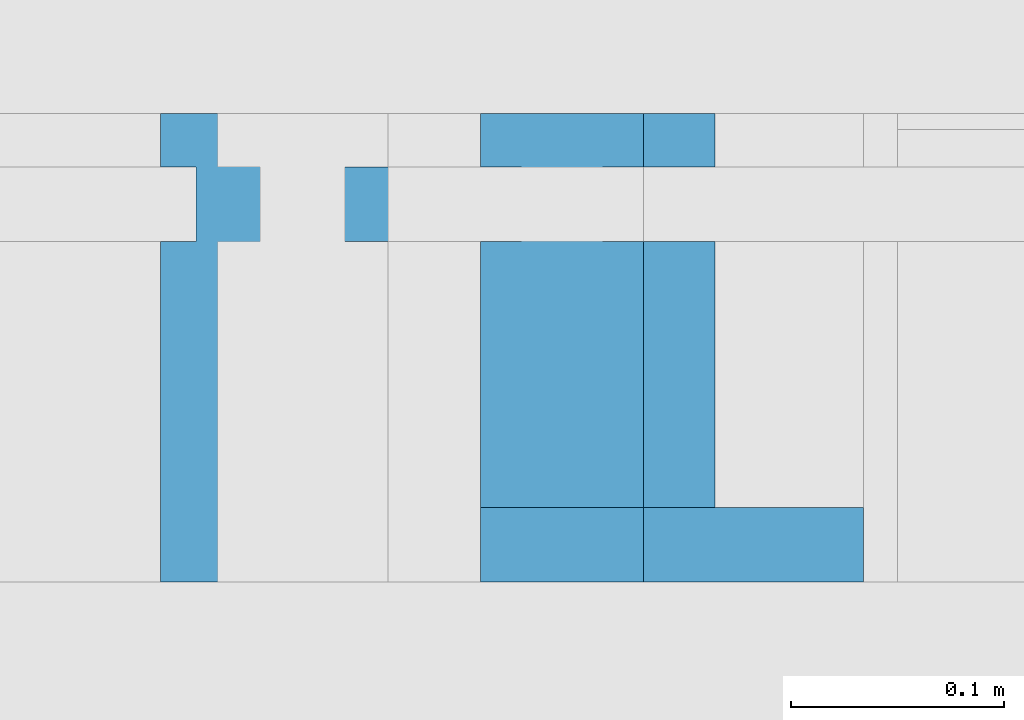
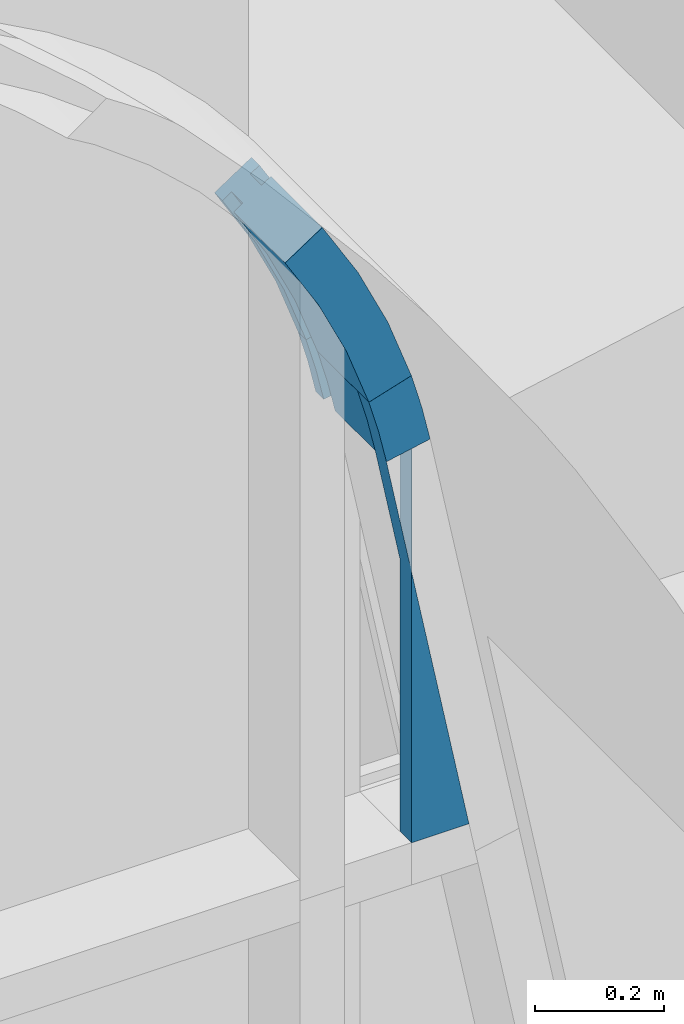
# One storey, part 212 of 302: 2 members, 1 plate, 1 element without a shape of its own.
"""IFC2X3 building model written with IfcOpenShell, lengths in metres."""

from ifc_helpers import new_model, entity, si_unit, converted_unit, derived_unit, direction, frame, origin, place, context, subcontext, project, spatial, face_set, faceted_brep, surface_model, source, transform, mapped, material, type_object, type_shapes, element, aggregate, save


model = new_model("IFC2X3")

# Units and contexts
model_context = context("Model", 3, precision=1e-05, world=origin(), true_north=direction((6.12303176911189e-17, 1.0)))
body_context = subcontext(model_context, "Body", "Model", "MODEL_VIEW")
ifc_project = project(units=[si_unit("LENGTHUNIT", "METRE"), si_unit("AREAUNIT", "SQUARE_METRE"), si_unit("VOLUMEUNIT", "CUBIC_METRE"), converted_unit("PLANEANGLEUNIT", "DEGREE", entity("IfcRatioMeasure", 0.0174532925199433), si_unit("PLANEANGLEUNIT", "RADIAN"), dimensions=[0, 0, 0, 0, 0, 0, 0]), si_unit("MASSUNIT", "GRAM", prefix="KILO"), derived_unit("MASSDENSITYUNIT", [(si_unit("MASSUNIT", "GRAM", prefix="KILO"), 1), (si_unit("LENGTHUNIT", "METRE"), -3)]), derived_unit("MOMENTOFINERTIAUNIT", [(si_unit("LENGTHUNIT", "METRE"), 4)]), si_unit("TIMEUNIT", "SECOND"), si_unit("FREQUENCYUNIT", "HERTZ"), si_unit("THERMODYNAMICTEMPERATUREUNIT", "DEGREE_CELSIUS"), derived_unit("THERMALTRANSMITTANCEUNIT", [(si_unit("MASSUNIT", "GRAM", prefix="KILO"), 1), (si_unit("THERMODYNAMICTEMPERATUREUNIT", "KELVIN"), -1), (si_unit("TIMEUNIT", "SECOND"), -3)]), derived_unit("VOLUMETRICFLOWRATEUNIT", [(si_unit("LENGTHUNIT", "METRE"), 3), (si_unit("TIMEUNIT", "SECOND"), -1)]), si_unit("ELECTRICCURRENTUNIT", "AMPERE"), si_unit("ELECTRICVOLTAGEUNIT", "VOLT"), si_unit("POWERUNIT", "WATT"), si_unit("FORCEUNIT", "NEWTON", prefix="KILO"), si_unit("ILLUMINANCEUNIT", "LUX"), si_unit("LUMINOUSFLUXUNIT", "LUMEN"), si_unit("LUMINOUSINTENSITYUNIT", "CANDELA"), derived_unit("USERDEFINED", [(si_unit("MASSUNIT", "GRAM", prefix="KILO"), -1), (si_unit("LENGTHUNIT", "METRE"), -2), (si_unit("TIMEUNIT", "SECOND"), 3), (si_unit("LUMINOUSFLUXUNIT", "LUMEN"), 1)]), derived_unit("LINEARVELOCITYUNIT", [(si_unit("LENGTHUNIT", "METRE"), 1), (si_unit("TIMEUNIT", "SECOND"), -1)]), si_unit("PRESSUREUNIT", "PASCAL"), derived_unit("USERDEFINED", [(si_unit("LENGTHUNIT", "METRE"), -2), (si_unit("MASSUNIT", "GRAM", prefix="KILO"), 1), (si_unit("TIMEUNIT", "SECOND"), -2)]), derived_unit("LINEARFORCEUNIT", [(si_unit("MASSUNIT", "GRAM", prefix="KILO"), 1), (si_unit("LENGTHUNIT", "METRE"), 1), (si_unit("TIMEUNIT", "SECOND"), -2), (si_unit("LENGTHUNIT", "METRE"), -1)]), derived_unit("PLANARFORCEUNIT", [(si_unit("MASSUNIT", "GRAM", prefix="KILO"), 1), (si_unit("LENGTHUNIT", "METRE"), 1), (si_unit("TIMEUNIT", "SECOND"), -2), (si_unit("LENGTHUNIT", "METRE"), -2)])], contexts=[model_context])

# Site, building, storey
site_placement = place(None, origin())
site = spatial("IfcSite", under=ifc_project, at=site_placement, Name="Default", CompositionType="ELEMENT")
building_placement = place(site_placement, origin())
building = spatial("IfcBuilding", under=site, at=building_placement, CompositionType="ELEMENT")
storey_placement = place(building_placement, frame((0.0, 0.0, -1.3)))
storey = spatial("IfcBuildingStorey", under=building, at=storey_placement, Name="00_EG", CompositionType="ELEMENT", Elevation=-1.3)

# Curtain wall, members, plate
curtain_wall_type = type_object("IfcCurtainWallType", Name="Fassade:Glasfassade", PredefinedType="NOTDEFINED")
curtain_wall_placement = place(storey_placement, frame((0.0, 0.0, 1.3)))
curtain_wall = element("IfcCurtainWall", 1, at=curtain_wall_placement, inside=storey, type_object=curtain_wall_type, Name="Fassade:Glasfassade", ObjectType="Fassade:Glasfassade")
ifc_material_1 = material(Name="Prepainted_Steel-ArcelorMittal_Construction_HAIRULTRA-35-CORAL-4309-[RAL_3000]")
member_type_1 = type_object("IfcMemberType", Name="Rectangular Mullion:Fassadenrahmen Typ 1", PredefinedType="MULLION", material=ifc_material_1)
shared_shape_1 = source(origin(), body_context, "Body", "Brep", [
    faceted_brep([(0.0, 0.0, 0.0), (-0.00589923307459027, 0.0, -0.124656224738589), (-0.00589923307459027, 0.16, -0.124656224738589), (0.0, 0.16, 0.0), (0.0, 0.195, 0.0), (-0.00589923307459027, 0.195, -0.124656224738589), (-0.00589923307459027, 0.22, -0.124656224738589), (0.0, 0.22, 0.0), (-0.0235442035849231, 0.0, -0.248198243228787), (-0.0235442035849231, 0.16, -0.248198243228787), (-0.0235442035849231, 0.195, -0.248198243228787), (-0.0235442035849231, 0.22, -0.248198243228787), (-0.0527771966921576, 0.0, -0.369521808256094), (-0.0527771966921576, 0.16, -0.369521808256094), (-0.0527771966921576, 0.195, -0.369521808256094), (-0.0527771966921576, 0.22, -0.369521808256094), (-0.0719775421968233, 0.16, -0.363922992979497), (-0.0431874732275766, 0.16, -0.244437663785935), (-0.0258098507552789, 0.16, -0.122767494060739), (-0.0200000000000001, 0.16, 0.0), (-0.0824740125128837, 0.16, -0.236916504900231), (-0.110378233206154, 0.16, -0.352725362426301), (-0.12957857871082, 0.16, -0.347126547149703), (-0.102117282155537, 0.16, -0.233155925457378), (-0.0855417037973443, 0.16, -0.117101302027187), (-0.0799999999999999, 0.16, 0.0), (-0.0599999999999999, 0.16, 0.0), (-0.0656310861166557, 0.16, -0.118990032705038), (-0.0258098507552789, 0.195, -0.122767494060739), (-0.0200000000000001, 0.195, 0.0), (-0.0431874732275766, 0.195, -0.244437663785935), (-0.0719775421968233, 0.195, -0.363922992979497), (-0.102117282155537, 0.195, -0.233155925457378), (-0.12957857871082, 0.195, -0.347126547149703), (-0.110378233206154, 0.195, -0.352725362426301), (-0.0824740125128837, 0.195, -0.236916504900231), (-0.0656310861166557, 0.195, -0.118990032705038), (-0.0599999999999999, 0.195, 0.0), (-0.0799999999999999, 0.195, 0.0), (-0.0855417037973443, 0.195, -0.117101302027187), (-0.0855417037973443, 0.22, -0.117101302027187), (-0.0799999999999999, 0.22, 0.0), (-0.12957857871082, 0.22, -0.347126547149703), (-0.102117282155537, 0.22, -0.233155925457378), (-0.0855417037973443, 0.0, -0.117101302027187), (-0.0799999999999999, 0.0, 0.0), (-0.102117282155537, 0.0, -0.233155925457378), (-0.12957857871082, 0.0, -0.347126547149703)], [[[0, 1, 2, 3]], [[4, 5, 6, 7]], [[1, 8, 9, 2]], [[5, 10, 11, 6]], [[8, 12, 13, 9]], [[10, 14, 15, 11]], [[9, 13, 16, 17, 18, 19, 3, 2]], [[20, 21, 22, 23, 24, 25, 26, 27]], [[19, 18, 28, 29]], [[18, 17, 30, 28]], [[17, 16, 31, 30]], [[30, 31, 14, 10, 5, 4, 29, 28]], [[32, 33, 34, 35, 36, 37, 38, 39]], [[40, 41, 7, 6, 11, 15, 42, 43]], [[40, 39, 38, 41]], [[24, 44, 45, 25]], [[40, 43, 32, 39]], [[24, 23, 46, 44]], [[43, 42, 33, 32]], [[22, 47, 46, 23]], [[36, 27, 26, 37]], [[36, 35, 20, 27]], [[35, 34, 21, 20]], [[1, 0, 45, 44, 46, 47, 12, 8]], [[26, 25, 45, 0, 3, 19, 29, 4, 7, 41, 38, 37]], [[15, 14, 31, 16, 13, 12, 47, 22, 21, 34, 33, 42]]]),
])
type_shapes(member_type_1, [shared_shape_1])
member_1_placement = place(storey_placement, frame((-228.3679697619, 45.738088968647, 11.4437441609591), z_axis=(-0.552078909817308, 0.0, 0.833791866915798), x_axis=(0.833791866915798, 0.0, 0.552078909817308)))
member_1 = element("IfcMember", 2, at=member_1_placement, type_object=member_type_1, material=ifc_material_1, Name="Rectangular Mullion:Fassadenrahmen Typ 1", ObjectType="Rectangular Mullion:Fassadenrahmen Typ 1", context=body_context, shape_type="MappedRepresentation", body=[
    mapped(shared_shape_1, transform((0.0, 0.0, 0.0), scale=1.0)),
])
member_type_2 = type_object("IfcMemberType", Name="Rectangular Mullion:Fassadenrahmen Typ 1", PredefinedType="MULLION", material=ifc_material_1)
shared_shape_2 = source(origin(), body_context, "Body", "Brep", [
    faceted_brep([(0.0, 0.0, 0.0), (-0.00175777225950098, 0.0, -0.0680986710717), (-0.00175777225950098, 0.16, -0.0680986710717), (0.0, 0.16, 0.0), (0.0, 0.22, 0.0), (0.0, 0.195, 0.0), (-0.00175777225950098, 0.195, -0.0680986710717), (-0.00175777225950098, 0.22, -0.0680986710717), (-0.0070264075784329, 0.0, -0.136015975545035), (-0.0070264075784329, 0.16, -0.136015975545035), (-0.0070264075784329, 0.195, -0.136015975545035), (-0.0070264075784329, 0.22, -0.136015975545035), (-0.0217311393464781, 0.16, -0.0670668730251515), (-0.0200000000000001, 0.16, 0.0), (-0.0269199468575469, 0.16, -0.133955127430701), (-0.081651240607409, 0.16, -0.0639714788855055), (-0.0799999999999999, 0.16, 0.0), (-0.0599999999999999, 0.16, 0.0), (-0.0616778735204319, 0.16, -0.0650032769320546), (-0.0667070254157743, 0.16, -0.129833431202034), (-0.0866005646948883, 0.16, -0.1277725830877), (-0.0200000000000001, 0.195, 0.0), (-0.0217311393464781, 0.195, -0.0670668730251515), (-0.0269199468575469, 0.195, -0.133955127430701), (-0.0616778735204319, 0.195, -0.0650032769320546), (-0.0599999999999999, 0.195, 0.0), (-0.0799999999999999, 0.195, 0.0), (-0.081651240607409, 0.195, -0.0639714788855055), (-0.0866005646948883, 0.195, -0.1277725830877), (-0.0667070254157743, 0.195, -0.129833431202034), (-0.081651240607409, 0.22, -0.0639714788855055), (-0.0799999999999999, 0.22, 0.0), (-0.0866005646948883, 0.22, -0.1277725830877), (-0.081651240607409, 0.0, -0.0639714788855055), (-0.0799999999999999, 0.0, 0.0), (-0.0866005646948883, 0.0, -0.1277725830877)], [[[0, 1, 2, 3]], [[4, 5, 6, 7]], [[1, 8, 9, 2]], [[7, 6, 10, 11]], [[12, 13, 3, 2, 9, 14]], [[15, 16, 17, 18, 19, 20]], [[21, 13, 12, 22]], [[22, 12, 14, 23]], [[6, 5, 21, 22, 23, 10]], [[24, 25, 26, 27, 28, 29]], [[30, 31, 4, 7, 11, 32]], [[27, 26, 31, 30]], [[15, 33, 34, 16]], [[32, 28, 27, 30]], [[20, 35, 33, 15]], [[18, 17, 25, 24]], [[29, 19, 18, 24]], [[0, 34, 33, 35, 8, 1]], [[17, 16, 34, 0, 3, 13, 21, 5, 4, 31, 26, 25]], [[11, 10, 23, 14, 9, 8, 35, 20, 19, 29, 28, 32]]]),
])
type_shapes(member_type_2, [shared_shape_2])
member_2_placement = place(storey_placement, frame((-228.207969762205, 45.738088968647, 11.1065027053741), z_axis=(-0.296592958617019, 0.0, 0.955003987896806), x_axis=(0.955003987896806, 0.0, 0.296592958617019)))
member_2 = element("IfcMember", 3, at=member_2_placement, type_object=member_type_2, material=ifc_material_1, Name="Rectangular Mullion:Fassadenrahmen Typ 1", ObjectType="Rectangular Mullion:Fassadenrahmen Typ 1", context=body_context, shape_type="MappedRepresentation", body=[
    mapped(shared_shape_2, transform((0.0, 0.0, 0.0), scale=1.0)),
])
ifc_material_2 = material(Name="Glass")
plate_type = type_object("IfcPlateType", Name="System Panel:Glazed", PredefinedType="CURTAIN_PANEL", material=ifc_material_2)
shared_shape_3 = source(origin(), body_context, "Body", "SurfaceModel", [
    surface_model("IfcFaceBasedSurfaceModel", [(-0.0898687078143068, -0.035, 0.0), (0.0582758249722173, -0.035, 0.738794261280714), (0.072472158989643, -0.035, 0.801192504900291), (0.0898687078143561, -0.035, 0.862775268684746), (0.0134683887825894, -0.035, 0.886502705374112), (0.0134683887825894, -0.035, 0.0), (-0.0898687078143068, 0.0, 0.0), (0.0582758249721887, 0.0, 0.738794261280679), (0.072472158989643, 0.0, 0.801192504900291), (0.0898687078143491, 0.0, 0.862775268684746), (0.0134683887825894, 0.0, 0.886502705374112), (0.0134683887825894, 0.0, 0.0)], [face_set([[[0, 1, 2, 3, 4, 5]], [[6, 7, 8, 9, 10, 11]], [[5, 0, 6, 11]], [[4, 5, 11, 10]], [[3, 4, 10, 9]], [[3, 9, 8, 2]], [[7, 1, 2, 8]], [[0, 6, 7, 1]]])]),
])
type_shapes(plate_type, [shared_shape_3])
plate_placement = place(curtain_wall_placement, frame((-228.194501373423, 45.738088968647, 8.92), z_axis=(0.0, 0.0, 1.0), x_axis=(-1.0, 0.0, 0.0)))
plate = element("IfcPlate", 4, at=plate_placement, type_object=plate_type, material=ifc_material_2, Name="System Panel:Glazed", ObjectType="System Panel:Glazed", context=body_context, shape_type="MappedRepresentation", body=[
    mapped(shared_shape_3, transform((0.0, 0.0, 0.0), scale=1.0)),
])
aggregate(curtain_wall, [plate, member_1, member_2])

save(model, "model.ifc")
